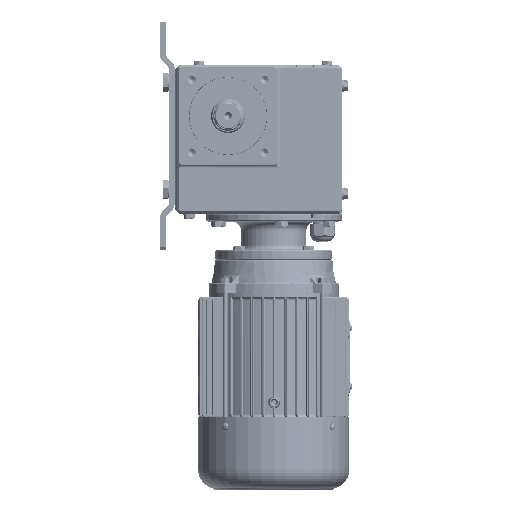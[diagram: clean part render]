
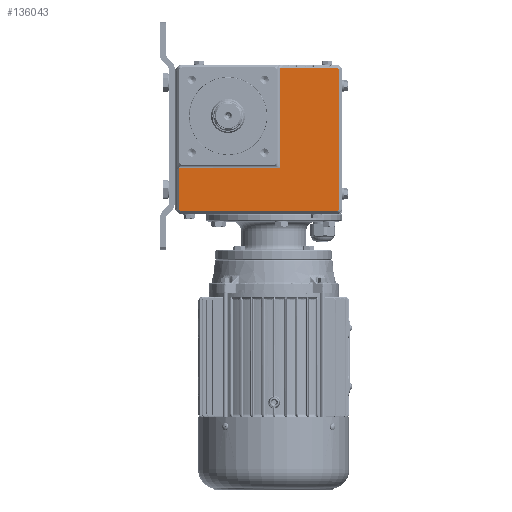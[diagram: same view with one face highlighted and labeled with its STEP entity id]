
A CAD part, top view. The second image highlights one B-rep face of the part: STEP entity #136043.
In plain terms, the highlighted planar face has unit normal (0, 0, 1) as drawn and (-1, 0, 0) by its records, which use the part's own axes.
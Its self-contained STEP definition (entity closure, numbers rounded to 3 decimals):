
#18720 = CARTESIAN_POINT ( 'NONE',  ( -96., -113.224, 49.5 ) ) ;
#44815 = CARTESIAN_POINT ( 'NONE',  ( -96., 49.224, -97.8 ) ) ;
#45277 = LINE ( 'NONE', #247311, #176851 ) ;
#45567 = CARTESIAN_POINT ( 'NONE',  ( -96., -117., -97.8 ) ) ;
#46055 = VERTEX_POINT ( 'NONE', #651878 ) ;
#51872 = EDGE_CURVE ( 'NONE', #56732, #483967, #262444, .T. ) ;
#55274 = CARTESIAN_POINT ( 'NONE',  ( -96., -114., 47.379 ) ) ;
#56732 = VERTEX_POINT ( 'NONE', #326991 ) ;
#58005 = CARTESIAN_POINT ( 'NONE',  ( -96., -111.879, -97.8 ) ) ;
#61885 = DIRECTION ( 'NONE',  ( 0., 1., 0. ) ) ;
#66216 = EDGE_CURVE ( 'NONE', #75688, #477811, #395533, .T. ) ;
#75688 = VERTEX_POINT ( 'NONE', #571826 ) ;
#82295 = CARTESIAN_POINT ( 'NONE',  ( -96., 53., 52.5 ) ) ;
#87967 = CARTESIAN_POINT ( 'NONE',  ( -96., 50., -53.243 ) ) ;
#91335 = CARTESIAN_POINT ( 'NONE',  ( -96., 50., -97.024 ) ) ;
#136043 = ADVANCED_FACE ( 'NONE', ( #370678 ), #274484, .F. ) ;
#136274 = EDGE_CURVE ( 'NONE', #616978, #56732, #493072, .T. ) ;
#137839 = ORIENTED_EDGE ( 'NONE', *, *, #201768, .T. ) ;
#139215 = ORIENTED_EDGE ( 'NONE', *, *, #428681, .T. ) ;
#147985 = DIRECTION ( 'NONE',  ( 0., 1., 0. ) ) ;
#155220 = EDGE_CURVE ( 'NONE', #477811, #469159, #452814, .T. ) ;
#161197 = CARTESIAN_POINT ( 'NONE',  ( -96., -111.879, 49.5 ) ) ;
#168765 = CARTESIAN_POINT ( 'NONE',  ( -96., -114., 52.5 ) ) ;
#171743 = VECTOR ( 'NONE', #188148, 1000. ) ;
#176851 = VECTOR ( 'NONE', #492744, 1000. ) ;
#187381 = CARTESIAN_POINT ( 'NONE',  ( -96., 47.879, -97.8 ) ) ;
#187440 = VERTEX_POINT ( 'NONE', #605616 ) ;
#188148 = DIRECTION ( 'NONE',  ( 0., -1., 0. ) ) ;
#190953 = CARTESIAN_POINT ( 'NONE',  ( -96., 47.879, -97.8 ) ) ;
#201768 = EDGE_CURVE ( 'NONE', #187440, #464503, #597317, .T. ) ;
#213833 = AXIS2_PLACEMENT_3D ( 'NONE', #82295, #234567, #579421 ) ;
#219212 =( BOUNDED_CURVE ( )  B_SPLINE_CURVE ( 3, ( #648041, #91335, #44815, #187381 ),
 .UNSPECIFIED., .F., .F. ) 
 B_SPLINE_CURVE_WITH_KNOTS ( ( 4, 4 ),
 ( 2.618, 3.665 ),
 .UNSPECIFIED. ) 
 CURVE ( )  GEOMETRIC_REPRESENTATION_ITEM ( )  RATIONAL_B_SPLINE_CURVE ( ( 1., 0.911, 0.911, 1. ) ) 
 REPRESENTATION_ITEM ( '' )  );
#220693 = CARTESIAN_POINT ( 'NONE',  ( -96., -114., 48.724 ) ) ;
#234567 = DIRECTION ( 'NONE',  ( 1., 0., 0. ) ) ;
#238254 = CARTESIAN_POINT ( 'NONE',  ( -96., -114., -95.679 ) ) ;
#247311 = CARTESIAN_POINT ( 'NONE',  ( -96., 50., 52.5 ) ) ;
#252893 = ORIENTED_EDGE ( 'NONE', *, *, #604661, .T. ) ;
#257368 = CARTESIAN_POINT ( 'NONE',  ( -96., -52., 49.5 ) ) ;
#262444 =( BOUNDED_CURVE ( )  B_SPLINE_CURVE ( 3, ( #58005, #352960, #306506, #515330 ),
 .UNSPECIFIED., .F., .F. ) 
 B_SPLINE_CURVE_WITH_KNOTS ( ( 4, 4 ),
 ( 2.618, 3.665 ),
 .UNSPECIFIED. ) 
 CURVE ( )  GEOMETRIC_REPRESENTATION_ITEM ( )  RATIONAL_B_SPLINE_CURVE ( ( 1., 0.911, 0.911, 1. ) ) 
 REPRESENTATION_ITEM ( '' )  );
#274391 = VECTOR ( 'NONE', #147985, 1000. ) ;
#274484 = PLANE ( 'NONE',  #213833 ) ;
#306506 = CARTESIAN_POINT ( 'NONE',  ( -96., -114., -97.024 ) ) ;
#326991 = CARTESIAN_POINT ( 'NONE',  ( -96., -111.879, -97.8 ) ) ;
#329765 = EDGE_CURVE ( 'NONE', #483967, #187440, #430491, .T. ) ;
#340218 = VECTOR ( 'NONE', #548054, 1000. ) ;
#352960 = CARTESIAN_POINT ( 'NONE',  ( -96., -113.224, -97.8 ) ) ;
#364234 = EDGE_CURVE ( 'NONE', #46055, #616978, #219212, .T. ) ;
#370678 = FACE_OUTER_BOUND ( 'NONE', #605323, .T. ) ;
#373015 = CARTESIAN_POINT ( 'NONE',  ( -96., -53.243, -53.243 ) ) ;
#373516 = ORIENTED_EDGE ( 'NONE', *, *, #155220, .T. ) ;
#394507 = ORIENTED_EDGE ( 'NONE', *, *, #449085, .T. ) ;
#395533 = LINE ( 'NONE', #402037, #340218 ) ;
#402037 = CARTESIAN_POINT ( 'NONE',  ( -96., -53.243, -52. ) ) ;
#409807 = LINE ( 'NONE', #257368, #564940 ) ;
#411560 = ORIENTED_EDGE ( 'NONE', *, *, #329765, .T. ) ;
#420666 = DIRECTION ( 'NONE',  ( 0., 0., 1. ) ) ;
#428681 = EDGE_CURVE ( 'NONE', #464503, #540107, #409807, .T. ) ;
#430491 = LINE ( 'NONE', #168765, #520947 ) ;
#446320 = CARTESIAN_POINT ( 'NONE',  ( -96., 50., -53.243 ) ) ;
#447096 = CARTESIAN_POINT ( 'NONE',  ( -96., -54.121, 49.5 ) ) ;
#448870 = ORIENTED_EDGE ( 'NONE', *, *, #66216, .T. ) ;
#449085 = EDGE_CURVE ( 'NONE', #469159, #46055, #45277, .T. ) ;
#452814 = LINE ( 'NONE', #446320, #274391 ) ;
#463710 = ORIENTED_EDGE ( 'NONE', *, *, #136274, .T. ) ;
#464503 = VERTEX_POINT ( 'NONE', #644304 ) ;
#469159 = VERTEX_POINT ( 'NONE', #87967 ) ;
#477811 = VERTEX_POINT ( 'NONE', #373015 ) ;
#481354 = ORIENTED_EDGE ( 'NONE', *, *, #364234, .T. ) ;
#483967 = VERTEX_POINT ( 'NONE', #238254 ) ;
#492744 = DIRECTION ( 'NONE',  ( 0., 0., -1. ) ) ;
#493072 = LINE ( 'NONE', #45567, #171743 ) ;
#513410 = CARTESIAN_POINT ( 'NONE',  ( -96., -54.121, 49.5 ) ) ;
#515330 = CARTESIAN_POINT ( 'NONE',  ( -96., -114., -95.679 ) ) ;
#520947 = VECTOR ( 'NONE', #420666, 1000. ) ;
#540107 = VERTEX_POINT ( 'NONE', #447096 ) ;
#548054 = DIRECTION ( 'NONE',  ( 0., 0., -1. ) ) ;
#549316 =( BOUNDED_CURVE ( )  B_SPLINE_CURVE ( 3, ( #513410, #563136, #606371, #609643 ),
 .UNSPECIFIED., .F., .F. ) 
 B_SPLINE_CURVE_WITH_KNOTS ( ( 4, 4 ),
 ( 5.76, 6.021 ),
 .UNSPECIFIED. ) 
 CURVE ( )  GEOMETRIC_REPRESENTATION_ITEM ( )  RATIONAL_B_SPLINE_CURVE ( ( 1., 0.994, 0.994, 1. ) ) 
 REPRESENTATION_ITEM ( '' )  );
#563136 = CARTESIAN_POINT ( 'NONE',  ( -96., -53.8, 49.5 ) ) ;
#564940 = VECTOR ( 'NONE', #61885, 1000. ) ;
#571826 = CARTESIAN_POINT ( 'NONE',  ( -96., -53.243, 49.645 ) ) ;
#572957 = ORIENTED_EDGE ( 'NONE', *, *, #51872, .T. ) ;
#579421 = DIRECTION ( 'NONE',  ( 0., 1., 0. ) ) ;
#597317 =( BOUNDED_CURVE ( )  B_SPLINE_CURVE ( 3, ( #55274, #220693, #18720, #161197 ),
 .UNSPECIFIED., .F., .F. ) 
 B_SPLINE_CURVE_WITH_KNOTS ( ( 4, 4 ),
 ( 2.618, 3.665 ),
 .UNSPECIFIED. ) 
 CURVE ( )  GEOMETRIC_REPRESENTATION_ITEM ( )  RATIONAL_B_SPLINE_CURVE ( ( 1., 0.911, 0.911, 1. ) ) 
 REPRESENTATION_ITEM ( '' )  );
#604661 = EDGE_CURVE ( 'NONE', #540107, #75688, #549316, .T. ) ;
#605323 = EDGE_LOOP ( 'NONE', ( #463710, #572957, #411560, #137839, #139215, #252893, #448870, #373516, #394507, #481354 ) ) ;
#605616 = CARTESIAN_POINT ( 'NONE',  ( -96., -114., 47.379 ) ) ;
#606371 = CARTESIAN_POINT ( 'NONE',  ( -96., -53.505, 49.548 ) ) ;
#609643 = CARTESIAN_POINT ( 'NONE',  ( -96., -53.243, 49.645 ) ) ;
#616978 = VERTEX_POINT ( 'NONE', #190953 ) ;
#644304 = CARTESIAN_POINT ( 'NONE',  ( -96., -111.879, 49.5 ) ) ;
#648041 = CARTESIAN_POINT ( 'NONE',  ( -96., 50., -95.679 ) ) ;
#651878 = CARTESIAN_POINT ( 'NONE',  ( -96., 50., -95.679 ) ) ;
